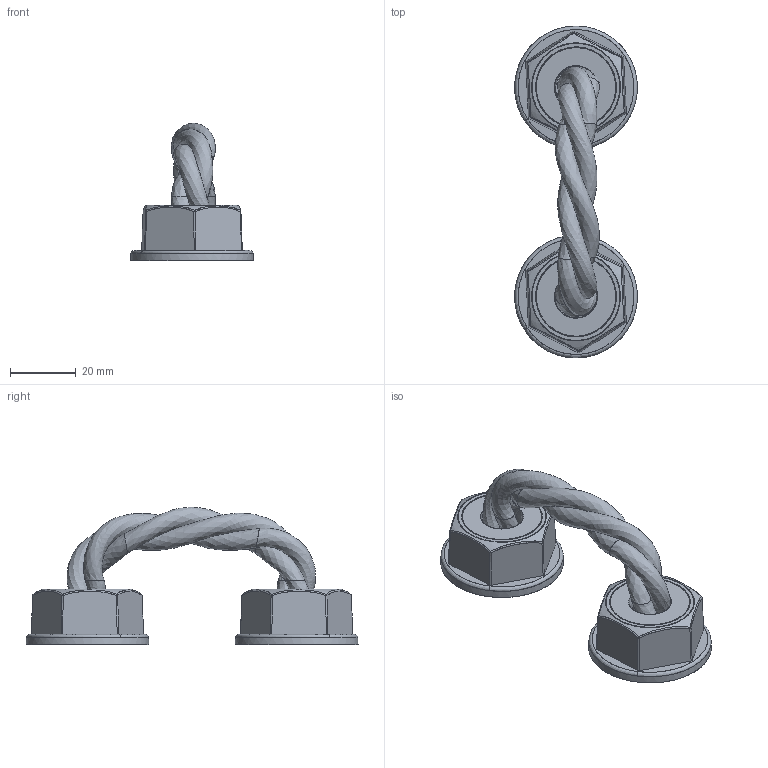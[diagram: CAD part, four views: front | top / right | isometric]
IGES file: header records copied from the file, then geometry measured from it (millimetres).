
Start section: C
Global section: file name: 8279-101.igs; native system: By Siemens PLM Incorporated; preprocessor: XPlus GENERIC/IGES 16.0.42; author: Author; organization: Title; date: 20230831.123910; units: millimetre
Bounding box: 37.37 x 101.12 x 41.97 mm (x, y, z)
Surface area: 18522.5 mm2 (no closed solid volume)
Topology: 0 solids, 0 shells, 211 faces, 1218 edges, 1218 vertices
Faces by surface type: bspline 211
